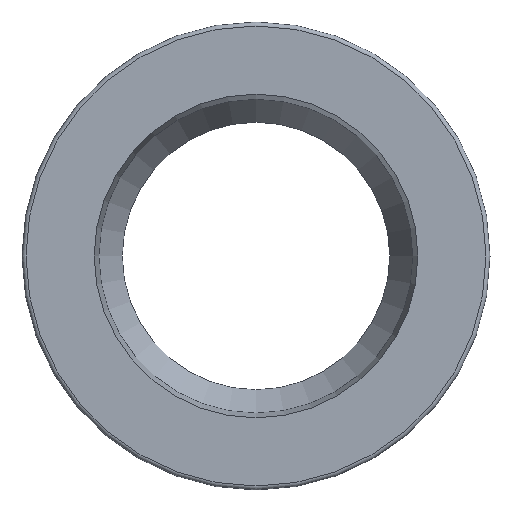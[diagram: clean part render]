
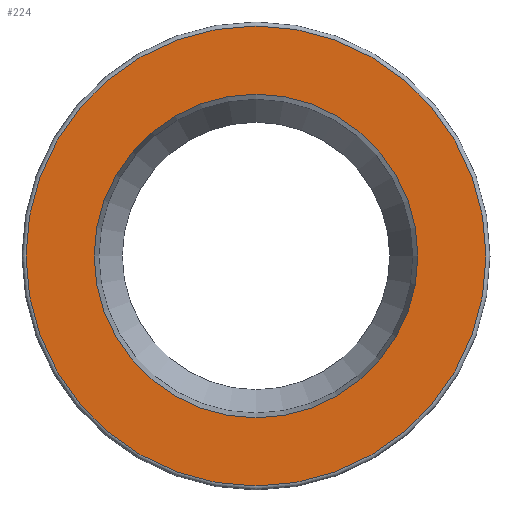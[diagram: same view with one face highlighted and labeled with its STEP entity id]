
A CAD part, left-side view. The second image highlights one B-rep face of the part: STEP entity #224.
In plain terms, the highlighted planar face has unit normal (-1, 0, 0).
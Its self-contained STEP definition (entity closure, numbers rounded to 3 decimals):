
#20=FACE_BOUND('',#66,.T.);
#24=PLANE('',#274);
#49=FACE_OUTER_BOUND('',#65,.T.);
#65=EDGE_LOOP('',(#176));
#66=EDGE_LOOP('',(#177));
#87=CIRCLE('',#270,17.2);
#90=CIRCLE('',#275,12.1);
#109=VERTEX_POINT('',#404);
#112=VERTEX_POINT('',#414);
#132=EDGE_CURVE('',#109,#109,#87,.T.);
#136=EDGE_CURVE('',#112,#112,#90,.T.);
#176=ORIENTED_EDGE('',*,*,#132,.F.);
#177=ORIENTED_EDGE('',*,*,#136,.T.);
#224=ADVANCED_FACE('',(#49,#20),#24,.T.);
#270=AXIS2_PLACEMENT_3D('',#406,#325,#326);
#274=AXIS2_PLACEMENT_3D('',#413,#334,#335);
#275=AXIS2_PLACEMENT_3D('',#415,#336,#337);
#325=DIRECTION('center_axis',(1.,0.,0.));
#326=DIRECTION('ref_axis',(0.,-1.,0.));
#334=DIRECTION('center_axis',(-1.,0.,0.));
#335=DIRECTION('ref_axis',(0.,0.,1.));
#336=DIRECTION('center_axis',(1.,0.,0.));
#337=DIRECTION('ref_axis',(0.,1.,0.));
#404=CARTESIAN_POINT('',(0.,0.,17.2));
#406=CARTESIAN_POINT('Origin',(0.,0.,
0.));
#413=CARTESIAN_POINT('Origin',(0.,14.8,0.));
#414=CARTESIAN_POINT('',(0.,-12.1,0.));
#415=CARTESIAN_POINT('Origin',(0.,0.,
0.));
